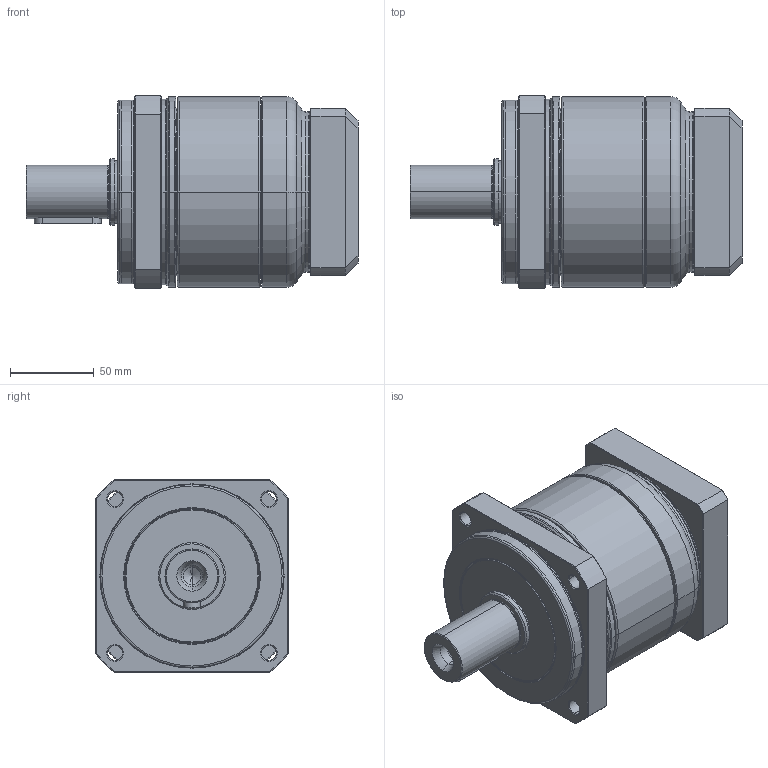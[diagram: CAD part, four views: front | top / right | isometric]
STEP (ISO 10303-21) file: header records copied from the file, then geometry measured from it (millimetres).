
FILE_DESCRIPTION((''),'2;1');
FILE_NAME('PA2-115_1ST_24-P0411500101_ASM','2016-05-05T',('d01943'),(''),'PRO/ENGINEER BY PARAMETRIC TECHNOLOGY CORPORATION, 2008410','PRO/ENGINEER BY PARAMETRIC TECHNOLOGY CORPORATION, 2008410','');
FILE_SCHEMA(('CONFIG_CONTROL_DESIGN'));
Length unit declared in the file: millimetre
Products named in the file (9): P1327410001; P0250400001; P1324400101; P0350400601; P0941401001; P0503500008; P0411500101; P1702500001; PA2-115_1ST_24-P0411500101_ASM
Assembly tree (8 placements, depth 2):
  PA2-115_1ST_24-P0411500101_ASM
    P1327410001
    P0250400001
    P1324400101
    P0350400601
    P0941401001
    P0503500008
    P0411500101
    P1702500001
Bounding box: 198.5 x 115 x 115 mm (x, y, z)
Volume: 1149732.3 mm3; surface area: 212011.9 mm2
Topology: 8 solids, 8 shells, 463 faces, 1012 edges, 584 vertices
Faces by surface type: cone 144, cylinder 129, torus 88, plane 86, bspline 16
Entity records: 17277 total; most frequent: CARTESIAN_POINT 6861, DIRECTION 2356, ORIENTED_EDGE 1984, AXIS2_PLACEMENT_3D 1005, EDGE_CURVE 992, VERTEX_POINT 584, CIRCLE 541, EDGE_LOOP 526
